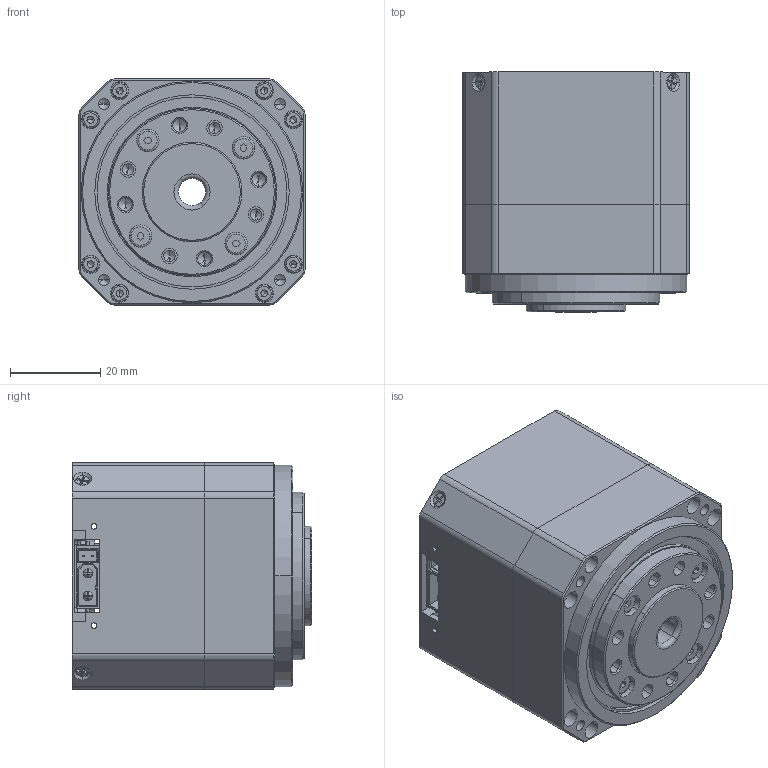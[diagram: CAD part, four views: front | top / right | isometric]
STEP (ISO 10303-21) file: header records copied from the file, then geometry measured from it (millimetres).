
FILE_DESCRIPTION (( 'STEP AP214' ), '1' );
FILE_NAME ('HTCP-5031-06-DYC-Õý×°Ä£ÐÍ.STEP', '2025-11-13T11:15:13', ( '' ), ( '' ), 'SwSTEP 2.0', 'SolidWorks 2024', '' );
FILE_SCHEMA (( 'AUTOMOTIVE_DESIGN' ));
Length unit declared in the file: millimetre
Products named in the file (12): HTCP-5031-06-DYC-正装模型; 5031-06-轴承座-1.1; M2.5-10-3.7杯头螺丝; 5031-06-31速比输出盘-1.2; 5031-06-外壳-1.1; 5031-06-电机盖-1.1; 35-46-5交叉滚子轴承; 3D_双编-5044-V1.0.0618_2025-08-06; 5031-06-线套-1.2; M2.5-6扁平头螺丝; 8-14-4轴承; m2-4-3十字沉头螺丝
Assembly tree (24 placements, depth 2):
  HTCP-5031-06-DYC-正装模型
    5031-06-外壳-1.1
    3D_双编-5044-V1.0.0618_2025-08-06
    35-46-5交叉滚子轴承
    5031-06-31速比输出盘-1.2
    5031-06-电机盖-1.1
    5031-06-线套-1.2
    5031-06-轴承座-1.1
    8-14-4轴承
    M2.5-6扁平头螺丝  x4
    M2.5-10-3.7杯头螺丝  x8
    m2-4-3十字沉头螺丝  x4
Bounding box: 50 x 53 x 50 mm (x, y, z)
Volume: 45526.8 mm3; surface area: 54249.6 mm2
Topology: 26 solids, 26 shells, 2683 faces, 7067 edges, 4515 vertices
Faces by surface type: cylinder 1204, plane 961, cone 252, bspline 196, torus 54, sphere 16
Entity records: 78566 total; most frequent: CARTESIAN_POINT 15988, DIRECTION 12971, ORIENTED_EDGE 12762, EDGE_CURVE 6381, AXIS2_PLACEMENT_3D 4806, VERTEX_POINT 4155, LINE 3359, VECTOR 3359
